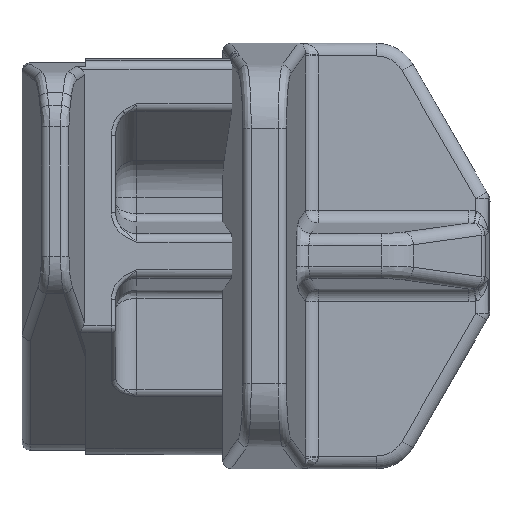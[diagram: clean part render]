
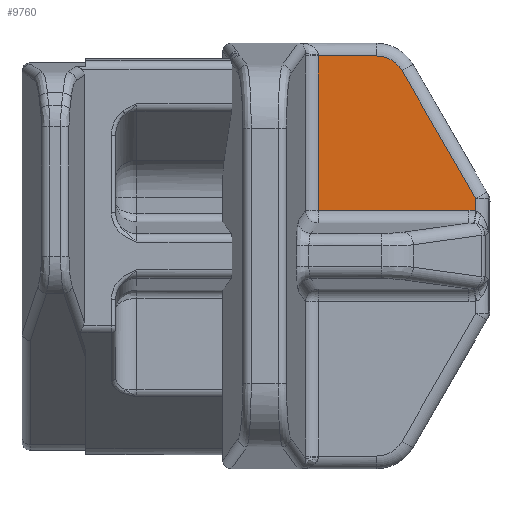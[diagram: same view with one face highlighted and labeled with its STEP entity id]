
A CAD part, left-side view. The second image highlights one B-rep face of the part: STEP entity #9760.
In plain terms, the highlighted planar face has unit normal (-1, 0, 0).
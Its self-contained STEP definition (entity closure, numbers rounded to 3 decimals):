
#325 = DIRECTION ( 'NONE',  ( 0., 0.5, 0.866 ) ) ;
#337 = VERTEX_POINT ( 'NONE', #4457 ) ;
#389 = CIRCLE ( 'NONE', #652, 7. ) ;
#444 = PLANE ( 'NONE',  #1736 ) ;
#594 = EDGE_CURVE ( 'NONE', #1555, #14166, #2785, .T. ) ;
#652 = AXIS2_PLACEMENT_3D ( 'NONE', #9914, #4946, #2416 ) ;
#902 = ORIENTED_EDGE ( 'NONE', *, *, #6506, .T. ) ;
#1555 = VERTEX_POINT ( 'NONE', #5452 ) ;
#1736 = AXIS2_PLACEMENT_3D ( 'NONE', #14119, #6829, #4297 ) ;
#1877 = CARTESIAN_POINT ( 'NONE',  ( -5., -49.601, 10.593 ) ) ;
#1927 = ORIENTED_EDGE ( 'NONE', *, *, #594, .T. ) ;
#2313 = CARTESIAN_POINT ( 'NONE',  ( -5., -49.076, 10.676 ) ) ;
#2416 = DIRECTION ( 'NONE',  ( 0., 0., 1. ) ) ;
#2656 = DIRECTION ( 'NONE',  ( 0., -1., 0. ) ) ;
#2785 = LINE ( 'NONE', #8808, #14477 ) ;
#2959 =( BOUNDED_CURVE ( )  B_SPLINE_CURVE ( 3, ( #15902, #13458, #2313, #12245 ),
 .UNSPECIFIED., .F., .F. ) 
 B_SPLINE_CURVE_WITH_KNOTS ( ( 4, 4 ),
 ( 1.757, 1.96 ),
 .UNSPECIFIED. ) 
 CURVE ( )  GEOMETRIC_REPRESENTATION_ITEM ( )  RATIONAL_B_SPLINE_CURVE ( ( 1., 0.997, 0.997, 1. ) ) 
 REPRESENTATION_ITEM ( '' )  );
#3141 = VECTOR ( 'NONE', #10982, 1000. ) ;
#3876 = DIRECTION ( 'NONE',  ( 0., 0., -1. ) ) ;
#4291 = EDGE_CURVE ( 'NONE', #10086, #4807, #9204, .T. ) ;
#4297 = DIRECTION ( 'NONE',  ( 0., 0., 1. ) ) ;
#4457 = CARTESIAN_POINT ( 'NONE',  ( -5., -47.993, 10.717 ) ) ;
#4807 = VERTEX_POINT ( 'NONE', #8177 ) ;
#4946 = DIRECTION ( 'NONE',  ( -1., 0., 0. ) ) ;
#5037 = CARTESIAN_POINT ( 'NONE',  ( -5., -49.601, 0. ) ) ;
#5106 = EDGE_LOOP ( 'NONE', ( #6838, #9993, #15300, #902, #13383, #10471, #1927 ) ) ;
#5452 = CARTESIAN_POINT ( 'NONE',  ( -5., -26.226, 47. ) ) ;
#5746 = VECTOR ( 'NONE', #325, 1000. ) ;
#5824 = EDGE_CURVE ( 'NONE', #11167, #337, #8841, .T. ) ;
#6506 = EDGE_CURVE ( 'NONE', #15681, #10086, #13577, .T. ) ;
#6568 = CARTESIAN_POINT ( 'NONE',  ( -5., -12.561, 0. ) ) ;
#6829 = DIRECTION ( 'NONE',  ( -1., 0., 0. ) ) ;
#6838 = ORIENTED_EDGE ( 'NONE', *, *, #11017, .T. ) ;
#7753 = EDGE_CURVE ( 'NONE', #4807, #1555, #389, .T. ) ;
#7859 = LINE ( 'NONE', #6568, #14026 ) ;
#7929 = EDGE_CURVE ( 'NONE', #337, #15681, #2959, .T. ) ;
#8177 = CARTESIAN_POINT ( 'NONE',  ( -5., -32.289, 43.5 ) ) ;
#8808 = CARTESIAN_POINT ( 'NONE',  ( -5., -53., 47. ) ) ;
#8841 = LINE ( 'NONE', #13797, #12072 ) ;
#9204 = LINE ( 'NONE', #15138, #5746 ) ;
#9461 = CARTESIAN_POINT ( 'NONE',  ( -5., -49.601, 13.514 ) ) ;
#9760 = ADVANCED_FACE ( 'NONE', ( #11617 ), #444, .T. ) ;
#9914 = CARTESIAN_POINT ( 'NONE',  ( -5., -26.226, 40. ) ) ;
#9993 = ORIENTED_EDGE ( 'NONE', *, *, #5824, .T. ) ;
#10086 = VERTEX_POINT ( 'NONE', #9461 ) ;
#10199 = DIRECTION ( 'NONE',  ( 0., 1., 0. ) ) ;
#10377 = CARTESIAN_POINT ( 'NONE',  ( -5., -12.561, 10.717 ) ) ;
#10471 = ORIENTED_EDGE ( 'NONE', *, *, #7753, .T. ) ;
#10709 = CARTESIAN_POINT ( 'NONE',  ( -5., -12.561, 47. ) ) ;
#10982 = DIRECTION ( 'NONE',  ( 0., 0., 1. ) ) ;
#11017 = EDGE_CURVE ( 'NONE', #14166, #11167, #7859, .T. ) ;
#11167 = VERTEX_POINT ( 'NONE', #10377 ) ;
#11617 = FACE_OUTER_BOUND ( 'NONE', #5106, .T. ) ;
#12072 = VECTOR ( 'NONE', #2656, 1000. ) ;
#12245 = CARTESIAN_POINT ( 'NONE',  ( -5., -49.601, 10.593 ) ) ;
#13383 = ORIENTED_EDGE ( 'NONE', *, *, #4291, .T. ) ;
#13458 = CARTESIAN_POINT ( 'NONE',  ( -5., -48.539, 10.717 ) ) ;
#13577 = LINE ( 'NONE', #5037, #3141 ) ;
#13797 = CARTESIAN_POINT ( 'NONE',  ( -5., -49.138, 10.717 ) ) ;
#14026 = VECTOR ( 'NONE', #3876, 1000. ) ;
#14119 = CARTESIAN_POINT ( 'NONE',  ( -5., -53., 0. ) ) ;
#14166 = VERTEX_POINT ( 'NONE', #10709 ) ;
#14477 = VECTOR ( 'NONE', #10199, 1000. ) ;
#15138 = CARTESIAN_POINT ( 'NONE',  ( -5., -56.303, 1.907 ) ) ;
#15300 = ORIENTED_EDGE ( 'NONE', *, *, #7929, .T. ) ;
#15681 = VERTEX_POINT ( 'NONE', #1877 ) ;
#15902 = CARTESIAN_POINT ( 'NONE',  ( -5., -47.993, 10.717 ) ) ;
